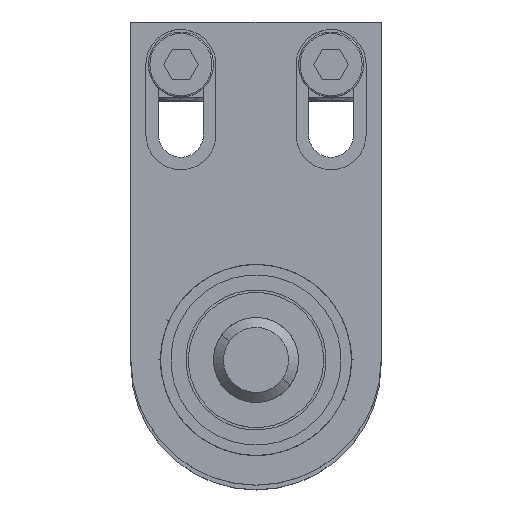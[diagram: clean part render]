
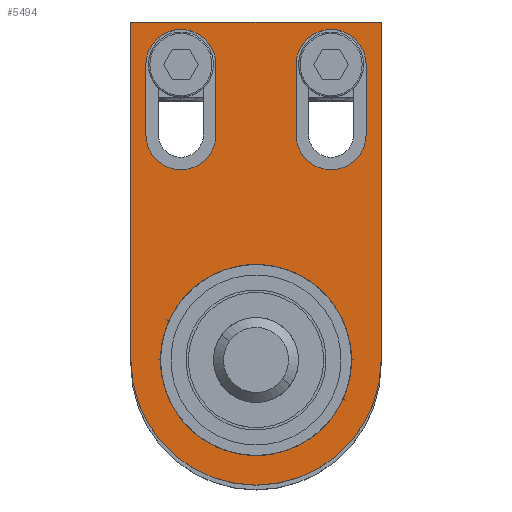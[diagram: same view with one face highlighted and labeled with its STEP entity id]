
A CAD part, top view. The second image highlights one B-rep face of the part: STEP entity #5494.
In plain terms, the highlighted planar face has unit normal (0, 0, 1).
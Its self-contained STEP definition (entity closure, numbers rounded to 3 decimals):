
#53 = VECTOR ( 'NONE', #4792, 1000. ) ;
#138 = LINE ( 'NONE', #2756, #1504 ) ;
#167 = EDGE_CURVE ( 'NONE', #3433, #4084, #934, .T. ) ;
#202 = DIRECTION ( 'NONE',  ( 0., 0., 1. ) ) ;
#229 = CARTESIAN_POINT ( 'NONE',  ( 25., 0., 6. ) ) ;
#340 = CARTESIAN_POINT ( 'NONE',  ( 25., 67.5, 6. ) ) ;
#362 = EDGE_LOOP ( 'NONE', ( #1501, #5406, #416, #4136 ) ) ;
#416 = ORIENTED_EDGE ( 'NONE', *, *, #167, .F. ) ;
#443 = ORIENTED_EDGE ( 'NONE', *, *, #2914, .F. ) ;
#518 = CARTESIAN_POINT ( 'NONE',  ( -25., 67.5, 6. ) ) ;
#617 = AXIS2_PLACEMENT_3D ( 'NONE', #875, #2245, #4109 ) ;
#669 = EDGE_CURVE ( 'NONE', #2948, #5698, #4269, .T. ) ;
#719 = LINE ( 'NONE', #1407, #5483 ) ;
#726 = VECTOR ( 'NONE', #1804, 1000. ) ;
#766 = ORIENTED_EDGE ( 'NONE', *, *, #1349, .F. ) ;
#767 = DIRECTION ( 'NONE',  ( 0., 1., 0. ) ) ;
#792 = LINE ( 'NONE', #1366, #1510 ) ;
#813 = CARTESIAN_POINT ( 'NONE',  ( 25., 67.5, 6. ) ) ;
#840 = EDGE_CURVE ( 'NONE', #4084, #2994, #792, .T. ) ;
#851 = CIRCLE ( 'NONE', #2722, 19.079 ) ;
#875 = CARTESIAN_POINT ( 'NONE',  ( 0., 0., 6. ) ) ;
#934 = CIRCLE ( 'NONE', #4280, 7. ) ;
#996 = AXIS2_PLACEMENT_3D ( 'NONE', #2904, #1650, #3032 ) ;
#1090 = EDGE_CURVE ( 'NONE', #4465, #5801, #5042, .T. ) ;
#1113 = CARTESIAN_POINT ( 'NONE',  ( 8., 45., 6. ) ) ;
#1125 = EDGE_CURVE ( 'NONE', #5736, #2948, #719, .T. ) ;
#1128 = CARTESIAN_POINT ( 'NONE',  ( 22., 45., 6. ) ) ;
#1171 = VERTEX_POINT ( 'NONE', #3371 ) ;
#1172 = VERTEX_POINT ( 'NONE', #4278 ) ;
#1208 = ORIENTED_EDGE ( 'NONE', *, *, #1209, .F. ) ;
#1209 = EDGE_CURVE ( 'NONE', #3800, #3261, #2378, .T. ) ;
#1219 = AXIS2_PLACEMENT_3D ( 'NONE', #4207, #4677, #1914 ) ;
#1254 = LINE ( 'NONE', #3814, #5606 ) ;
#1320 = VERTEX_POINT ( 'NONE', #3163 ) ;
#1323 = DIRECTION ( 'NONE',  ( 1., 0., 0. ) ) ;
#1349 = EDGE_CURVE ( 'NONE', #1171, #4465, #138, .T. ) ;
#1366 = CARTESIAN_POINT ( 'NONE',  ( 22., 59., 6. ) ) ;
#1382 = EDGE_CURVE ( 'NONE', #1320, #1171, #4697, .T. ) ;
#1407 = CARTESIAN_POINT ( 'NONE',  ( 25., 0., 6. ) ) ;
#1444 = CARTESIAN_POINT ( 'NONE',  ( -19.079, 0., 6. ) ) ;
#1464 = ORIENTED_EDGE ( 'NONE', *, *, #1090, .F. ) ;
#1482 = CIRCLE ( 'NONE', #4679, 25. ) ;
#1492 = DIRECTION ( 'NONE',  ( 1., 0., 0. ) ) ;
#1501 = ORIENTED_EDGE ( 'NONE', *, *, #5788, .F. ) ;
#1504 = VECTOR ( 'NONE', #4573, 1000. ) ;
#1510 = VECTOR ( 'NONE', #3281, 1000. ) ;
#1621 = DIRECTION ( 'NONE',  ( 1., 0., 0. ) ) ;
#1636 = EDGE_LOOP ( 'NONE', ( #5066, #4602, #1464, #766 ) ) ;
#1650 = DIRECTION ( 'NONE',  ( 0., 0., 1. ) ) ;
#1741 = DIRECTION ( 'NONE',  ( 1., 0., 0. ) ) ;
#1804 = DIRECTION ( 'NONE',  ( -1., 0., 0. ) ) ;
#1914 = DIRECTION ( 'NONE',  ( 1., 0., 0. ) ) ;
#2021 = CARTESIAN_POINT ( 'NONE',  ( -25., 0., 6. ) ) ;
#2201 = FACE_OUTER_BOUND ( 'NONE', #5366, .T. ) ;
#2245 = DIRECTION ( 'NONE',  ( 0., 0., 1. ) ) ;
#2261 = DIRECTION ( 'NONE',  ( 1., 0., 0. ) ) ;
#2378 = CIRCLE ( 'NONE', #5161, 19.079 ) ;
#2409 = CARTESIAN_POINT ( 'NONE',  ( 0., 0., 6. ) ) ;
#2495 = VECTOR ( 'NONE', #767, 1000. ) ;
#2636 = CARTESIAN_POINT ( 'NONE',  ( -8., 59., 6. ) ) ;
#2722 = AXIS2_PLACEMENT_3D ( 'NONE', #5027, #4123, #1323 ) ;
#2752 = EDGE_CURVE ( 'NONE', #5698, #4976, #2959, .T. ) ;
#2756 = CARTESIAN_POINT ( 'NONE',  ( -22., 59., 6. ) ) ;
#2904 = CARTESIAN_POINT ( 'NONE',  ( 15., 59., 6. ) ) ;
#2914 = EDGE_CURVE ( 'NONE', #3261, #3800, #851, .T. ) ;
#2948 = VERTEX_POINT ( 'NONE', #340 ) ;
#2959 = LINE ( 'NONE', #5215, #53 ) ;
#2979 = CARTESIAN_POINT ( 'NONE',  ( 0., 0., 6. ) ) ;
#2994 = VERTEX_POINT ( 'NONE', #5983 ) ;
#3006 = AXIS2_PLACEMENT_3D ( 'NONE', #3242, #3225, #2261 ) ;
#3032 = DIRECTION ( 'NONE',  ( 1., 0., 0. ) ) ;
#3086 = DIRECTION ( 'NONE',  ( 0., -1., 0. ) ) ;
#3115 = DIRECTION ( 'NONE',  ( 0., 0., 1. ) ) ;
#3163 = CARTESIAN_POINT ( 'NONE',  ( -8., 59., 6. ) ) ;
#3204 = PLANE ( 'NONE',  #617 ) ;
#3225 = DIRECTION ( 'NONE',  ( 0., 0., 1. ) ) ;
#3242 = CARTESIAN_POINT ( 'NONE',  ( -15., 59., 6. ) ) ;
#3261 = VERTEX_POINT ( 'NONE', #1444 ) ;
#3275 = ORIENTED_EDGE ( 'NONE', *, *, #1125, .T. ) ;
#3281 = DIRECTION ( 'NONE',  ( 0., 1., 0. ) ) ;
#3285 = DIRECTION ( 'NONE',  ( 0., 1., 0. ) ) ;
#3348 = DIRECTION ( 'NONE',  ( 0., 0., 1. ) ) ;
#3371 = CARTESIAN_POINT ( 'NONE',  ( -22., 59., 6. ) ) ;
#3433 = VERTEX_POINT ( 'NONE', #1113 ) ;
#3444 = FACE_BOUND ( 'NONE', #3477, .T. ) ;
#3477 = EDGE_LOOP ( 'NONE', ( #443, #1208 ) ) ;
#3546 = ORIENTED_EDGE ( 'NONE', *, *, #669, .T. ) ;
#3597 = CARTESIAN_POINT ( 'NONE',  ( 15., 45., 6. ) ) ;
#3800 = VERTEX_POINT ( 'NONE', #4687 ) ;
#3814 = CARTESIAN_POINT ( 'NONE',  ( 8., 59., 6. ) ) ;
#3979 = ORIENTED_EDGE ( 'NONE', *, *, #2752, .T. ) ;
#4084 = VERTEX_POINT ( 'NONE', #1128 ) ;
#4109 = DIRECTION ( 'NONE',  ( 1., 0., 0. ) ) ;
#4123 = DIRECTION ( 'NONE',  ( 0., 0., 1. ) ) ;
#4136 = ORIENTED_EDGE ( 'NONE', *, *, #5866, .F. ) ;
#4207 = CARTESIAN_POINT ( 'NONE',  ( -15., 45., 6. ) ) ;
#4269 = LINE ( 'NONE', #813, #726 ) ;
#4278 = CARTESIAN_POINT ( 'NONE',  ( 8., 59., 6. ) ) ;
#4280 = AXIS2_PLACEMENT_3D ( 'NONE', #3597, #3115, #1741 ) ;
#4381 = FACE_BOUND ( 'NONE', #362, .T. ) ;
#4431 = EDGE_CURVE ( 'NONE', #4976, #5736, #1482, .T. ) ;
#4465 = VERTEX_POINT ( 'NONE', #5710 ) ;
#4573 = DIRECTION ( 'NONE',  ( 0., -1., 0. ) ) ;
#4602 = ORIENTED_EDGE ( 'NONE', *, *, #5271, .F. ) ;
#4677 = DIRECTION ( 'NONE',  ( 0., 0., 1. ) ) ;
#4679 = AXIS2_PLACEMENT_3D ( 'NONE', #2979, #202, #1621 ) ;
#4687 = CARTESIAN_POINT ( 'NONE',  ( 19.079, 0., 6. ) ) ;
#4697 = CIRCLE ( 'NONE', #3006, 7. ) ;
#4792 = DIRECTION ( 'NONE',  ( 0., -1., 0. ) ) ;
#4976 = VERTEX_POINT ( 'NONE', #2021 ) ;
#5027 = CARTESIAN_POINT ( 'NONE',  ( 0., 0., 6. ) ) ;
#5042 = CIRCLE ( 'NONE', #1219, 7. ) ;
#5066 = ORIENTED_EDGE ( 'NONE', *, *, #1382, .F. ) ;
#5161 = AXIS2_PLACEMENT_3D ( 'NONE', #2409, #3348, #1492 ) ;
#5215 = CARTESIAN_POINT ( 'NONE',  ( -25., 0., 6. ) ) ;
#5235 = FACE_BOUND ( 'NONE', #1636, .T. ) ;
#5271 = EDGE_CURVE ( 'NONE', #5801, #1320, #5611, .T. ) ;
#5307 = ORIENTED_EDGE ( 'NONE', *, *, #4431, .T. ) ;
#5366 = EDGE_LOOP ( 'NONE', ( #5307, #3275, #3546, #3979 ) ) ;
#5406 = ORIENTED_EDGE ( 'NONE', *, *, #840, .F. ) ;
#5483 = VECTOR ( 'NONE', #3285, 1000. ) ;
#5494 = ADVANCED_FACE ( 'NONE', ( #4381, #5235, #3444, #2201 ), #3204, .T. ) ;
#5606 = VECTOR ( 'NONE', #3086, 1000. ) ;
#5611 = LINE ( 'NONE', #2636, #2495 ) ;
#5698 = VERTEX_POINT ( 'NONE', #518 ) ;
#5710 = CARTESIAN_POINT ( 'NONE',  ( -22., 45., 6. ) ) ;
#5736 = VERTEX_POINT ( 'NONE', #229 ) ;
#5788 = EDGE_CURVE ( 'NONE', #2994, #1172, #5979, .T. ) ;
#5801 = VERTEX_POINT ( 'NONE', #5838 ) ;
#5838 = CARTESIAN_POINT ( 'NONE',  ( -8., 45., 6. ) ) ;
#5866 = EDGE_CURVE ( 'NONE', #1172, #3433, #1254, .T. ) ;
#5979 = CIRCLE ( 'NONE', #996, 7. ) ;
#5983 = CARTESIAN_POINT ( 'NONE',  ( 22., 59., 6. ) ) ;
